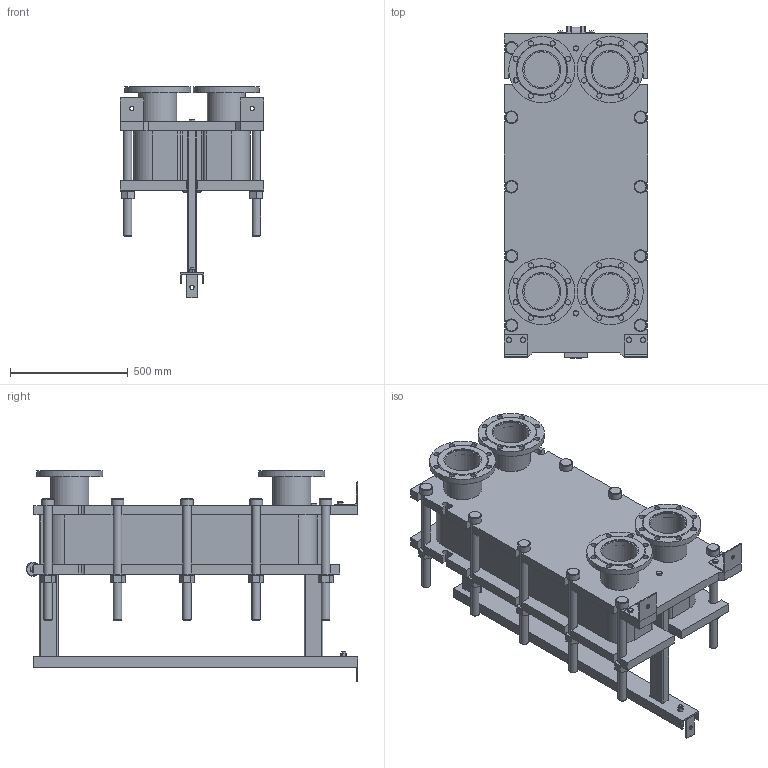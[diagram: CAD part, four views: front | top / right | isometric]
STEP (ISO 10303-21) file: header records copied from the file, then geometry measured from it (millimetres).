
FILE_DESCRIPTION(/* description */ (''),/* implementation_level */ '2;1');
FILE_NAME(/* name */ 'C:\Users\zhuro\Desktop\ENCO\TO\ЭН-041\ЭН-0,5-041-61-1.stp',/* time_stamp */ '2022-06-06T10:54:11+03:00',/* author */ ('zhuro'),/* organization */ (''),/* preprocessor_version */ 'ST-DEVELOPER v18.1',/* originating_system */ 'Autodesk Inventor 2022',/* authorisation */ '');
FILE_SCHEMA (('AUTOMOTIVE_DESIGN { 1 0 10303 214 3 1 1 }'));
Length unit declared in the file: millimetre
Products named in the file (1): ЭН-0,5-041-61-1
Bounding box: 610 x 1406.5 x 897.5 mm (x, y, z)
Volume: 196097447.4 mm3; surface area: 8164593.1 mm2
Topology: 52 solids, 52 shells, 711 faces, 1696 edges, 1094 vertices
Faces by surface type: plane 487, cylinder 177, cone 41, torus 6
Full cylindrical faces by diameter (mm): 8 x4, 10 x2, 16 x8, 18 x3, 22 x32, 36 x24, 50 x1, 54 x10, 60 x12, 151 x4, 161 x8, 280 x4
Entity records: 22667 total; most frequent: CARTESIAN_POINT 5230, DIRECTION 3644, ORIENTED_EDGE 3392, EDGE_CURVE 1696, AXIS2_PLACEMENT_3D 1272, LINE 1100, VECTOR 1100, VERTEX_POINT 1094
